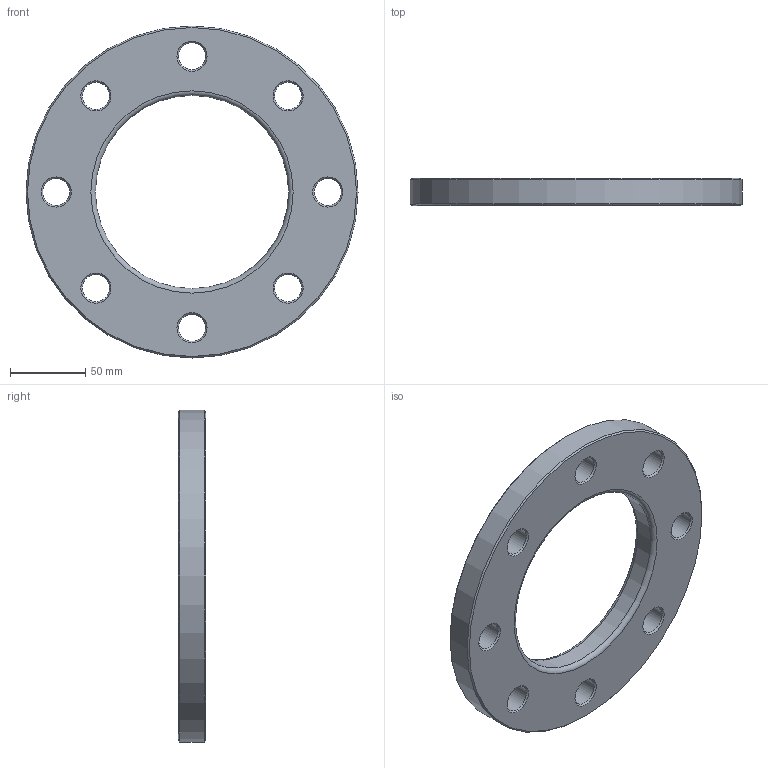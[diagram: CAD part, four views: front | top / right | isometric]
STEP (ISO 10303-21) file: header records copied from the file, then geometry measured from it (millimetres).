
FILE_DESCRIPTION(/* description */ ('Unknown'),/* implementation_level */ '2;1');
FILE_NAME(/* name */ 'FZ110C',/* time_stamp */ '2021-03-15T11:49:21+01:00',/* author */ ('Unknown'),/* organization */ ('Unknown'),/* preprocessor_version */ 'ST-DEVELOPER v16.7',/* originating_system */ 'Solid Edge',/* authorisation */ 'Unknown');
FILE_SCHEMA (('AUTOMOTIVE_DESIGN {1 0 10303 214 3 1 1}'));
Length unit declared in the file: millimetre
Products named in the file (1): FZ110C
Bounding box: 220 x 18 x 220 mm (x, y, z)
Volume: 413244.2 mm3; surface area: 71692 mm2
Topology: 1 solids, 1 shells, 32 faces, 94 edges, 64 vertices
Faces by surface type: cone 18, cylinder 10, plane 2, torus 2
Full cylindrical faces by diameter (mm): 18 x8, 128 x1, 220 x1
Entity records: 790 total; most frequent: DIRECTION 146, CARTESIAN_POINT 113, ORIENTED_EDGE 80, EDGE_LOOP 80, FACE_BOUND 80, AXIS2_PLACEMENT_3D 73, EDGE_CURVE 40, VERTEX_POINT 40
